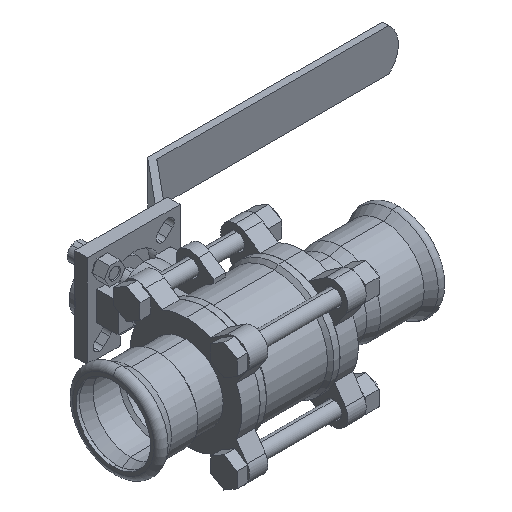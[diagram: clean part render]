
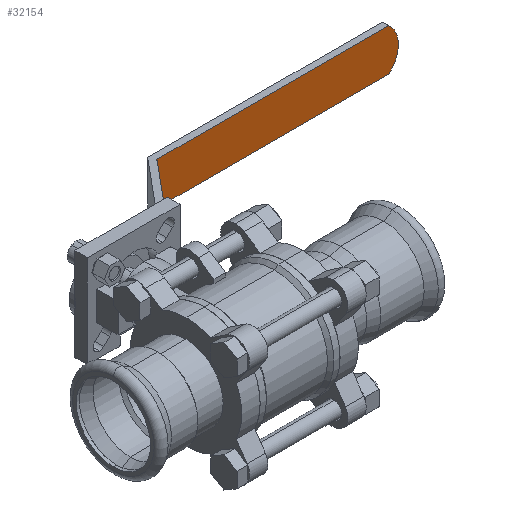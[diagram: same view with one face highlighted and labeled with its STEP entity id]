
A CAD part, isometric view. The second image highlights one B-rep face of the part: STEP entity #32154.
In plain terms, the highlighted planar face has unit normal (0, -1, 0).
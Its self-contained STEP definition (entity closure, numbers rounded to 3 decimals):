
#1238 = EDGE_CURVE ( 'NONE', #10395, #12765, #32225, .T. ) ;
#1696 = ORIENTED_EDGE ( 'NONE', *, *, #1238, .T. ) ;
#1987 = EDGE_LOOP ( 'NONE', ( #21749, #1696, #27182, #28049 ) ) ;
#2646 = VECTOR ( 'NONE', #18739, 1000. ) ;
#3693 = CARTESIAN_POINT ( 'NONE',  ( 157., 88.5, 10. ) ) ;
#3757 = EDGE_CURVE ( 'NONE', #28852, #12765, #11244, .T. ) ;
#4218 = VECTOR ( 'NONE', #27225, 1000. ) ;
#6199 = CARTESIAN_POINT ( 'NONE',  ( 47., 88.5, 10. ) ) ;
#6912 = DIRECTION ( 'NONE',  ( 0., 0., -1. ) ) ;
#8092 = LINE ( 'NONE', #35604, #24288 ) ;
#10001 = DIRECTION ( 'NONE',  ( 0., -1., 0. ) ) ;
#10395 = VERTEX_POINT ( 'NONE', #26300 ) ;
#10594 = AXIS2_PLACEMENT_3D ( 'NONE', #38170, #10001, #6912 ) ;
#11244 = LINE ( 'NONE', #21290, #4218 ) ;
#11550 = DIRECTION ( 'NONE',  ( 0., 1., 0. ) ) ;
#11553 = VERTEX_POINT ( 'NONE', #28531 ) ;
#12765 = VERTEX_POINT ( 'NONE', #3693 ) ;
#13637 = FACE_OUTER_BOUND ( 'NONE', #1987, .T. ) ;
#14740 = AXIS2_PLACEMENT_3D ( 'NONE', #30022, #11550, #30432 ) ;
#16133 = EDGE_CURVE ( 'NONE', #11553, #10395, #8092, .T. ) ;
#16347 = EDGE_CURVE ( 'NONE', #28852, #11553, #38272, .T. ) ;
#18739 = DIRECTION ( 'NONE',  ( 0., 0., -1. ) ) ;
#19242 = CARTESIAN_POINT ( 'NONE',  ( 47., 88.5, 10. ) ) ;
#20015 = DIRECTION ( 'NONE',  ( 1., 0., 0. ) ) ;
#21290 = CARTESIAN_POINT ( 'NONE',  ( 47., 88.5, 10. ) ) ;
#21749 = ORIENTED_EDGE ( 'NONE', *, *, #16133, .T. ) ;
#24288 = VECTOR ( 'NONE', #20015, 1000. ) ;
#26300 = CARTESIAN_POINT ( 'NONE',  ( 157., 88.5, -10. ) ) ;
#27182 = ORIENTED_EDGE ( 'NONE', *, *, #3757, .F. ) ;
#27225 = DIRECTION ( 'NONE',  ( 1., 0., 0. ) ) ;
#28049 = ORIENTED_EDGE ( 'NONE', *, *, #16347, .T. ) ;
#28531 = CARTESIAN_POINT ( 'NONE',  ( 47., 88.5, -10. ) ) ;
#28852 = VERTEX_POINT ( 'NONE', #19242 ) ;
#30022 = CARTESIAN_POINT ( 'NONE',  ( 47., 88.5, 10. ) ) ;
#30432 = DIRECTION ( 'NONE',  ( 0., 0., 1. ) ) ;
#32154 = ADVANCED_FACE ( 'NONE', ( #13637 ), #32708, .F. ) ;
#32225 = CIRCLE ( 'NONE', #10594, 13. ) ;
#32708 = PLANE ( 'NONE',  #14740 ) ;
#35604 = CARTESIAN_POINT ( 'NONE',  ( 47., 88.5, -10. ) ) ;
#38170 = CARTESIAN_POINT ( 'NONE',  ( 148.693, 88.5, 0. ) ) ;
#38272 = LINE ( 'NONE', #6199, #2646 ) ;
